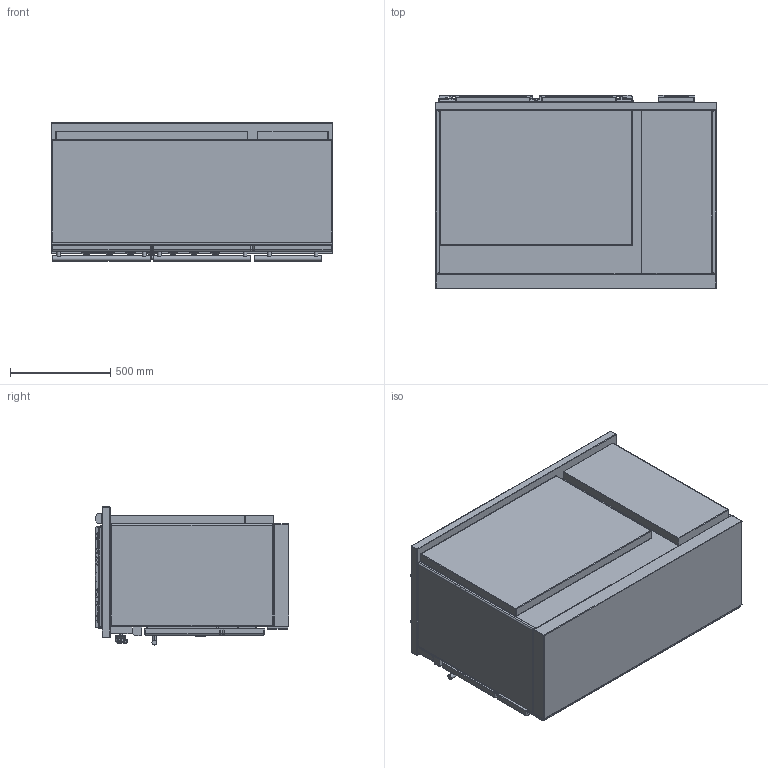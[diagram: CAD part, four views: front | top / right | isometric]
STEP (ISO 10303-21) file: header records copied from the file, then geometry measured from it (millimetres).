
FILE_DESCRIPTION((''),'2;1');
FILE_NAME('LMG1452G_ASM','2022-04-13T11:38:07',('stagiaire'),(''),'CREO PARAMETRIC BY PTC INC, 2021424','CREO PARAMETRIC BY PTC INC, 2021424','');
FILE_SCHEMA(('AP203_CONFIGURATION_CONTROLLED_3D_DESIGN_OF_MECHANICAL_PARTS_AND_ASSEMBLIES_MIM_LF { 1 0 10303 403 2 1 2 }'));
Products named in the file (21): BASE_EXPORT_CLUNY_1400G_MODERN; 65064012; 19150009; 88064012_ASM; 65049009; 65650001; BASE_EXPORT_CLUNY_1400G_MODERN_ASM; TABLE_1405G_CLASSIQUE; 3KW; 5KW; 1_5KW; 4KW; 6537025; 65149005; 90000488_ASM; 6537023; 90000565_ASM; CHEMINEE_2020_LG182_EXPORT_STEP; CHEMINEE_2020_LG371_EXPORT_STEP; TABLE_1405G_CLASSIQUE_ASM; LMG1452G_ASM
Assembly tree (37 placements, depth 4):
  LMG1452G_ASM
    BASE_EXPORT_CLUNY_1400G_MODERN_ASM
      BASE_EXPORT_CLUNY_1400G_MODERN
      88064012_ASM  x7
        65064012
        19150009
      65049009
      65650001
    TABLE_1405G_CLASSIQUE_ASM
      TABLE_1405G_CLASSIQUE
      3KW  x2
      5KW
      1_5KW
      4KW
      90000488_ASM  x2
        6537025
        65149005
      90000565_ASM  x2
        6537023
        65149005
      CHEMINEE_2020_LG182_EXPORT_STEP
      CHEMINEE_2020_LG371_EXPORT_STEP  x2
Bounding box: 1405 x 965 x 687.75 mm (x, y, z)
Volume: 508670974.7 mm3; surface area: 12823769.8 mm2
Topology: 50 solids, 50 shells, 6050 faces, 16604 edges, 10626 vertices
Faces by surface type: cylinder 2020, plane 1829, bspline 1336, sphere 324, cone 323, torus 176, extrusion 42
Entity records: 142577 total; most frequent: CARTESIAN_POINT 48501, ORIENTED_EDGE 15274, DIRECTION 14130, EDGE_CURVE 7637, AXIS2_PLACEMENT_3D 4779, VERTEX_POINT 4637, VECTOR 4514, LINE 4492
